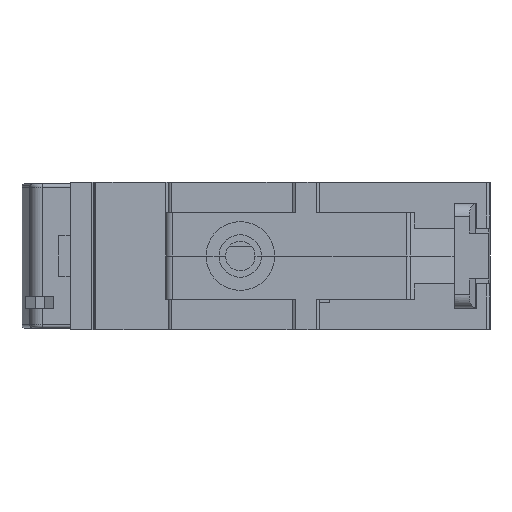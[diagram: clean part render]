
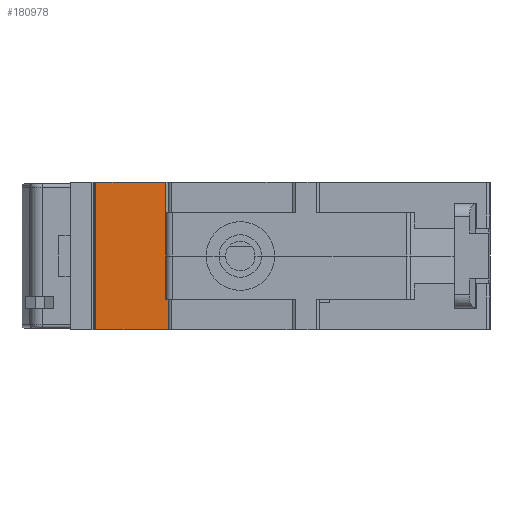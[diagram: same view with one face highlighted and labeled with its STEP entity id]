
A CAD part, left-side view. The second image highlights one B-rep face of the part: STEP entity #180978.
In plain terms, the highlighted planar face has unit normal (-1, 0, 0).
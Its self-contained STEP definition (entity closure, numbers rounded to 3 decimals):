
#9388 = VERTEX_POINT ( 'NONE', #151146 ) ;
#14202 = CARTESIAN_POINT ( 'NONE',  ( -22.5, -0.4, -6.65 ) ) ;
#22282 = EDGE_CURVE ( 'NONE', #113795, #9388, #83117, .T. ) ;
#27749 = EDGE_CURVE ( 'NONE', #197380, #252659, #169652, .T. ) ;
#29792 = LINE ( 'NONE', #239437, #296517 ) ;
#36917 = VECTOR ( 'NONE', #201028, 1000. ) ;
#40076 = EDGE_CURVE ( 'NONE', #9388, #174152, #298991, .T. ) ;
#51364 = FACE_OUTER_BOUND ( 'NONE', #77045, .T. ) ;
#54094 = VERTEX_POINT ( 'NONE', #212909 ) ;
#58573 = VECTOR ( 'NONE', #301476, 1000. ) ;
#58981 = VECTOR ( 'NONE', #112771, 1000. ) ;
#63466 = CARTESIAN_POINT ( 'NONE',  ( -22.5, 10.705, 11.25 ) ) ;
#68100 = ORIENTED_EDGE ( 'NONE', *, *, #153605, .T. ) ;
#70323 = EDGE_CURVE ( 'NONE', #174152, #197380, #205420, .T. ) ;
#77045 = EDGE_LOOP ( 'NONE', ( #269927, #227692, #68100, #114626, #120726, #233558, #132249 ) ) ;
#83117 = LINE ( 'NONE', #248865, #263674 ) ;
#86511 = CARTESIAN_POINT ( 'NONE',  ( -22.5, 0., 11.25 ) ) ;
#88453 = CARTESIAN_POINT ( 'NONE',  ( -22.5, -0.4, -11.25 ) ) ;
#89371 = CARTESIAN_POINT ( 'NONE',  ( -22.5, -0.4, -6.65 ) ) ;
#92697 = EDGE_CURVE ( 'NONE', #54094, #113795, #179704, .T. ) ;
#112771 = DIRECTION ( 'NONE',  ( 0., 0., 1. ) ) ;
#113571 = DIRECTION ( 'NONE',  ( 0., 0., -1. ) ) ;
#113795 = VERTEX_POINT ( 'NONE', #202580 ) ;
#114626 = ORIENTED_EDGE ( 'NONE', *, *, #27749, .F. ) ;
#120726 = ORIENTED_EDGE ( 'NONE', *, *, #70323, .F. ) ;
#122844 = LINE ( 'NONE', #63466, #58981 ) ;
#125554 = CARTESIAN_POINT ( 'NONE',  ( -22.5, 0., 11.25 ) ) ;
#132249 = ORIENTED_EDGE ( 'NONE', *, *, #22282, .F. ) ;
#135953 = DIRECTION ( 'NONE',  ( 0., 1., 0. ) ) ;
#150425 = CARTESIAN_POINT ( 'NONE',  ( -22.5, 0., -6.65 ) ) ;
#151146 = CARTESIAN_POINT ( 'NONE',  ( -22.5, 0., 0. ) ) ;
#153605 = EDGE_CURVE ( 'NONE', #247533, #252659, #29792, .T. ) ;
#157989 = PLANE ( 'NONE',  #200407 ) ;
#159058 = DIRECTION ( 'NONE',  ( 1., 0., 0. ) ) ;
#169652 = LINE ( 'NONE', #89371, #177114 ) ;
#174152 = VERTEX_POINT ( 'NONE', #244893 ) ;
#177114 = VECTOR ( 'NONE', #113571, 1000. ) ;
#179704 = LINE ( 'NONE', #125554, #36917 ) ;
#180978 = ADVANCED_FACE ( 'NONE', ( #51364 ), #157989, .F. ) ;
#197380 = VERTEX_POINT ( 'NONE', #14202 ) ;
#200407 = AXIS2_PLACEMENT_3D ( 'NONE', #86511, #159058, #135953 ) ;
#201028 = DIRECTION ( 'NONE',  ( 0., -1., 0. ) ) ;
#202580 = CARTESIAN_POINT ( 'NONE',  ( -22.5, 0., 11.25 ) ) ;
#205420 = LINE ( 'NONE', #150425, #258184 ) ;
#212909 = CARTESIAN_POINT ( 'NONE',  ( -22.5, 10.705, 11.25 ) ) ;
#227692 = ORIENTED_EDGE ( 'NONE', *, *, #311353, .F. ) ;
#230920 = DIRECTION ( 'NONE',  ( 0., 0., -1. ) ) ;
#233558 = ORIENTED_EDGE ( 'NONE', *, *, #40076, .F. ) ;
#239437 = CARTESIAN_POINT ( 'NONE',  ( -22.5, 0., -11.25 ) ) ;
#244553 = DIRECTION ( 'NONE',  ( 0., -1., 0. ) ) ;
#244893 = CARTESIAN_POINT ( 'NONE',  ( -22.5, 0., -6.65 ) ) ;
#247533 = VERTEX_POINT ( 'NONE', #262956 ) ;
#248865 = CARTESIAN_POINT ( 'NONE',  ( -22.5, 0., 39. ) ) ;
#252659 = VERTEX_POINT ( 'NONE', #88453 ) ;
#258184 = VECTOR ( 'NONE', #276331, 1000. ) ;
#262956 = CARTESIAN_POINT ( 'NONE',  ( -22.5, 10.705, -11.25 ) ) ;
#263674 = VECTOR ( 'NONE', #230920, 1000. ) ;
#269927 = ORIENTED_EDGE ( 'NONE', *, *, #92697, .F. ) ;
#274160 = CARTESIAN_POINT ( 'NONE',  ( -22.5, 0., 11.25 ) ) ;
#276331 = DIRECTION ( 'NONE',  ( 0., -1., 0. ) ) ;
#296517 = VECTOR ( 'NONE', #244553, 1000. ) ;
#298991 = LINE ( 'NONE', #274160, #58573 ) ;
#301476 = DIRECTION ( 'NONE',  ( 0., 0., -1. ) ) ;
#311353 = EDGE_CURVE ( 'NONE', #247533, #54094, #122844, .T. ) ;
